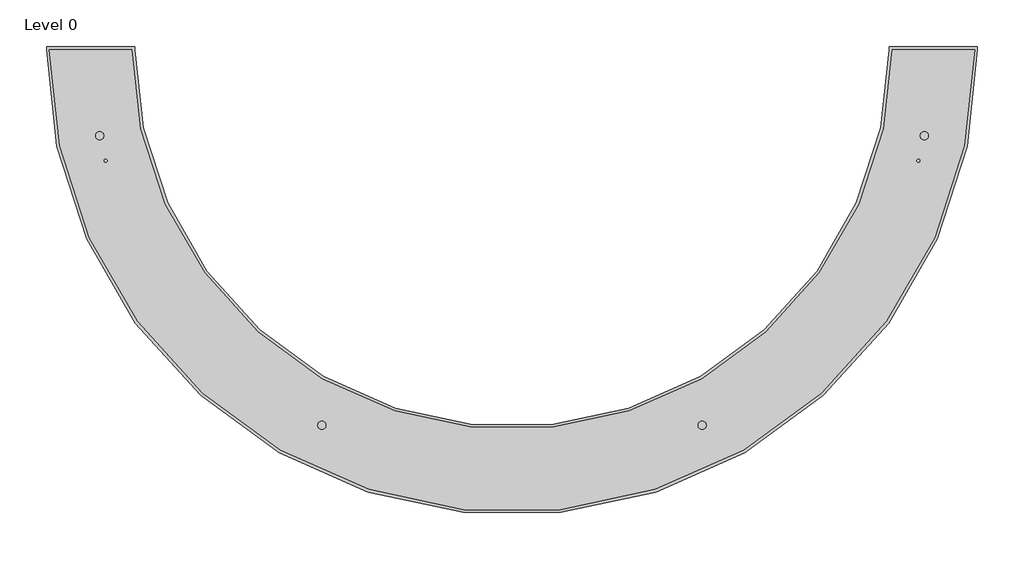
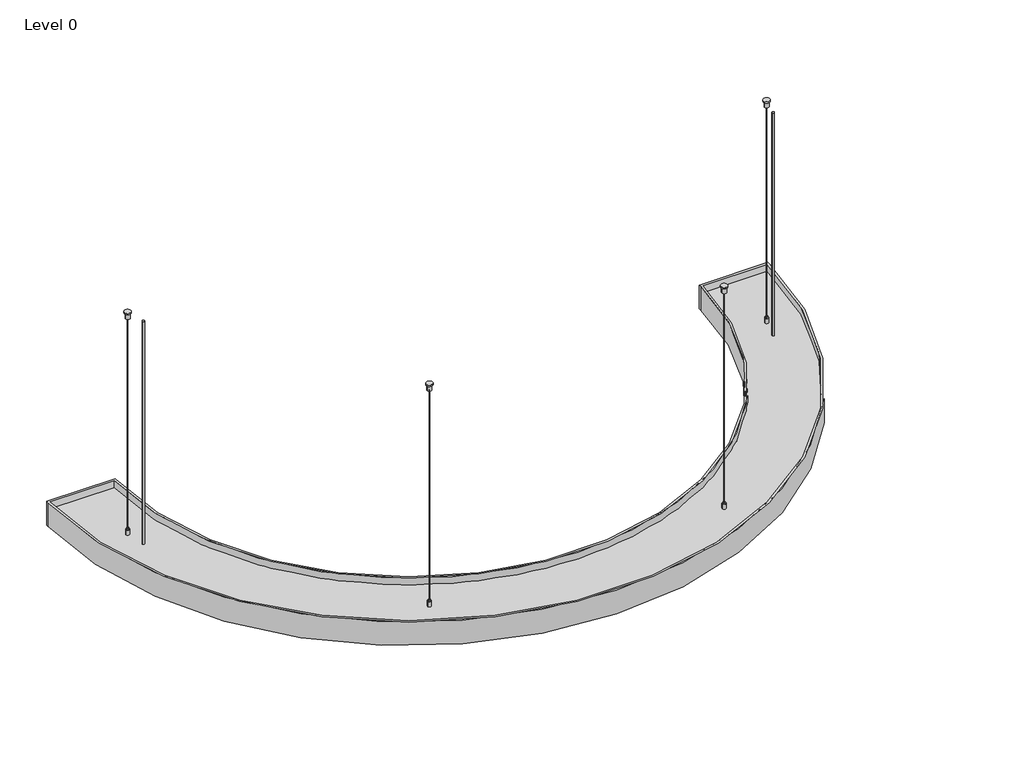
# One storey: 1 light fixture.
"""IFC4 building model written with IfcOpenShell, lengths in millimetres."""

from ifc_helpers import new_model, si_unit, origin, place, context, project, spatial, transform, mapped, element, save
from components import silver_anodized_3000_k_5920_lm_ace6beb4

model = new_model("IFC4")

# Units and contexts
model_context = context("Model", 3, world=origin())
ifc_project = project(units=[si_unit("LENGTHUNIT", "METRE", prefix="MILLI")], contexts=[model_context])

# Site, building, storey
site = spatial("IfcSite", under=ifc_project)
building = spatial("IfcBuilding", under=site)
storey = spatial("IfcBuildingStorey", under=building, Name="Level 0", Elevation=0.0)

# Light fixture
placement = place(None, origin())
silver_anodized_3000_k_5920_lm_shape = silver_anodized_3000_k_5920_lm_ace6beb4(model_context)
element("IfcLightFixture", 1, ObjectType="KLUŚ - MIFOR - MI-SNAKE-06 : Silver anodized - 3000 K - 5920 lm", at=placement, inside=storey, context=model_context, shape_type="MappedRepresentation", body=[
    mapped(silver_anodized_3000_k_5920_lm_shape, transform((0.0, 0.0, 555.0), x_axis=(1.0, 0.0, 0.0), y_axis=(0.0, -1.0, 0.0), z_axis=(0.0, 0.0, -1.0))),
])

save(model, "model.ifc")
